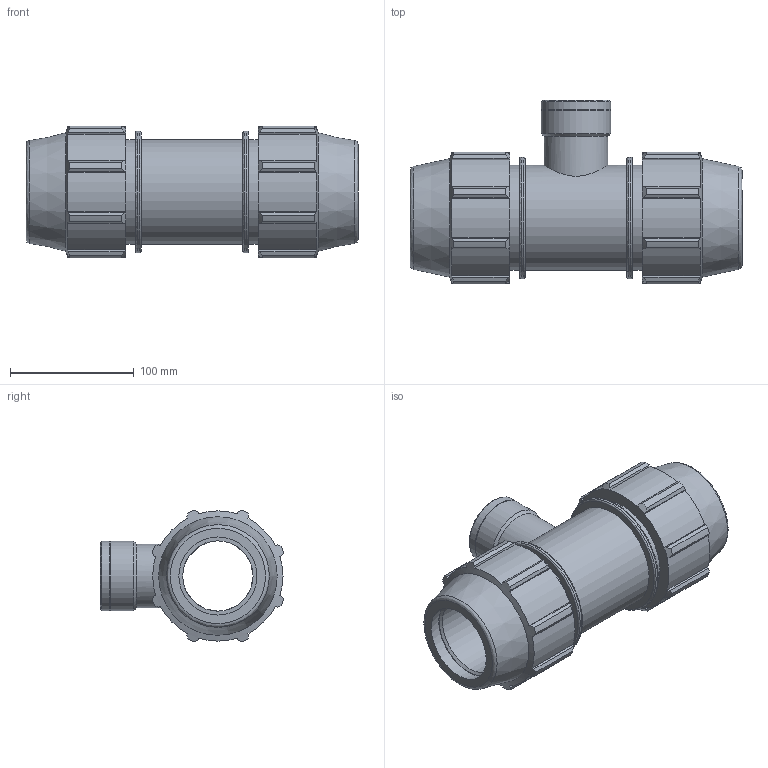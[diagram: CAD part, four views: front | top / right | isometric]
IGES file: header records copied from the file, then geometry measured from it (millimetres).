
Global section: file name: 071400063015_181400063015_0714060630150A.ipt; native system: Autodesk Inventor 2015; preprocessor: unknown; author: KIM; date: 20170606.172200; units: millimetre
Bounding box: 268 x 148.16 x 106.32 mm (x, y, z)
Volume: 1091511.8 mm3; surface area: 174040.6 mm2
Topology: 1 solids, 1 shells, 157 faces, 441 edges, 298 vertices
Faces by surface type: plane 79, cylinder 40, cone 23, revolution 15
Full cylindrical faces by diameter (mm): 51.572 x1, 56.056 x2, 84.75 x3, 98.31 x2
